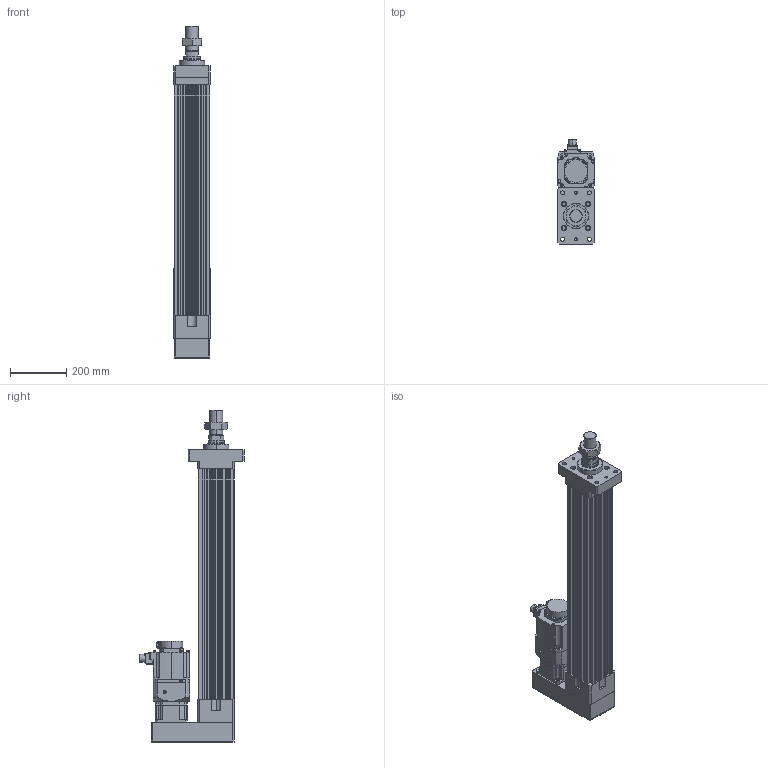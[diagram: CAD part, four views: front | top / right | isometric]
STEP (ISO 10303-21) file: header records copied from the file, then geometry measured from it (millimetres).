
FILE_DESCRIPTION (( 'STEP AP203' ), '1' );
FILE_NAME ('HES130NS(FS)(HS)-P600-W015G00-M-FMB.STEP', '2023-01-29T05:45:52', ( 'tms' ), ( '' ), 'SwSTEP 2.0', 'SolidWorks 2013', '' );
FILE_SCHEMA (( 'CONFIG_CONTROL_DESIGN' ));
Length unit declared in the file: millimetre
Products named in the file (8): HES130 ROD M ST600; AB115-003[HG-SR152]; P0401400706; HG-SR152; M45X1.5P; HES130-P600-G120-FMB; HES130NS(FS)(HS)-P600-W015G00-M-FMB; AB1151
Assembly tree (7 placements, depth 3):
  HES130NS(FS)(HS)-P600-W015G00-M-FMB
    HES130-P600-G120-FMB
    HES130 ROD M ST600
    M45X1.5P
    AB115-003[HG-SR152]
      AB1151
      P0401400706
    HG-SR152
Bounding box: 130 x 372.49 x 1182 mm (x, y, z)
Volume: 13248216.8 mm3; surface area: 1612454.3 mm2
Topology: 4 solids, 11 shells, 1082 faces, 2768 edges, 1799 vertices
Faces by surface type: cylinder 513, plane 489, cone 68, bspline 8, torus 4
Entity records: 34626 total; most frequent: CARTESIAN_POINT 6632, DIRECTION 5993, ORIENTED_EDGE 5484, EDGE_CURVE 2752, AXIS2_PLACEMENT_3D 2228, VERTEX_POINT 1799, VECTOR 1537, LINE 1537
